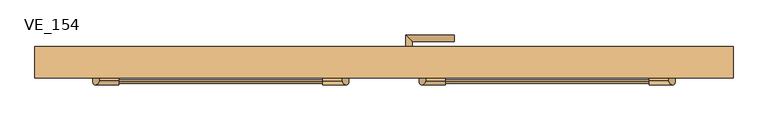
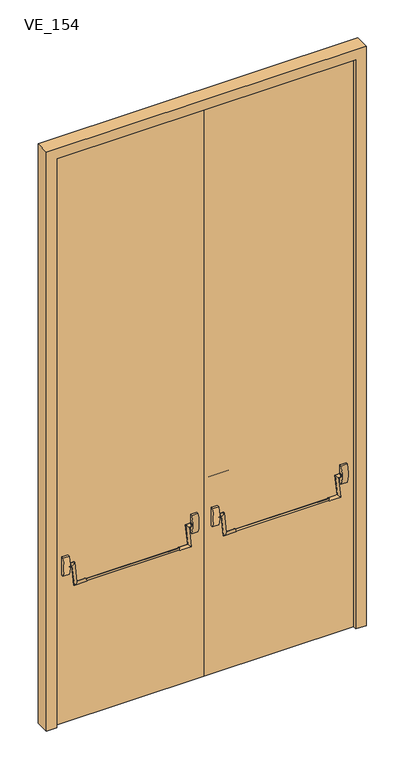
"""IFC4 building model written with IfcOpenShell, lengths in millimetres: door geometry, TRP_CP_ARC_PO_2B_RE : VE_154."""

from ifc_helpers import new_model, si_unit, point, frame, frame_2d, origin, origin_with_axes, place, context, project, spatial, polyline, circle_curve, ellipse_curve, trimmed, segment, composite_curve, outline, extrude, source, transform, mapped, element, save
from ifc_brep_helpers import plane_surface, cylinder_surface, advanced_brep


def ve_154_4ed43ff9(model_context):
    return source(origin(), model_context, "Body", "SolidModel", [
        advanced_brep(
        [(62.5, 25.0, 960.0), (47.5, 25.0, 960.0), (62.5, 45.8278773, 960.0), (47.5, 60.8278773, 960.0), (155.0, 45.8278773, 960.0), (155.0, 60.8278773, 960.0)],
        [
            (0, 1, circle_curve(frame((55.0, 25.0, 960.0), z_axis=(0.0, -1.0, 0.0), x_axis=(-1.0, 0.0, 0.0)), 7.5)),
            (1, 0, circle_curve(frame((55.0, 25.0, 960.0), z_axis=(0.0, -1.0, 0.0), x_axis=(-1.0, 0.0, 0.0)), 7.5)),
            (0, 2),
            (2, 3, ellipse_curve(frame((55.0, 53.3278773, 960.0), z_axis=(-0.7071067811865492, -0.7071067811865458, 0.0), x_axis=(0.7071067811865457, -0.7071067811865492, 0.0)), 10.6066017, 7.5)),
            (3, 1),
            (3, 2, ellipse_curve(frame((55.0, 53.3278773, 960.0), z_axis=(-0.7071067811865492, -0.7071067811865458, 0.0), x_axis=(0.7071067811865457, -0.7071067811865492, 0.0)), 10.6066017, 7.5)),
            (4, 5, circle_curve(frame((155.0, 53.3278773, 960.0), z_axis=(1.0, 0.0, 0.0), x_axis=(0.0, 1.0, 0.0)), 7.5)),
            (5, 4, circle_curve(frame((155.0, 53.3278773, 960.0), z_axis=(1.0, 0.0, 0.0), x_axis=(0.0, 1.0, 0.0)), 7.5)),
            (2, 4),
            (5, 3),
        ],
        [
            plane_surface(frame((55.0, 25.0, 960.0), z_axis=(0.0, -1.0, 0.0), x_axis=(0.0, 0.0, 1.0))),
            cylinder_surface(frame((55.0, 25.0, 960.0), z_axis=(0.0, -1.0, 0.0), x_axis=(-1.0, 0.0, 0.0)), 7.5),
            plane_surface(frame((155.0, 53.3278773, 960.0), z_axis=(1.0, 0.0, 0.0), x_axis=(0.0, 0.0, 1.0))),
            cylinder_surface(frame((55.0, 53.3278773, 960.0), z_axis=(-1.0, 0.0, 0.0), x_axis=(0.0, 1.0, 0.0)), 7.5),
        ],
        [
            (0, [[1, 2]]),
            (1, [[-1, 3, 4, 5]]),
            (1, [[-2, -5, 6, -3]]),
            (2, [[7, 8]]),
            (3, [[-4, 9, -8, 10]]),
            (3, [[-6, -10, -7, -9]]),
        ],
    ),
        extrude(outline(composite_curve([segment(polyline([(980.0, 35.0), (940.0, 35.0)]), True, "CONTINUOUS"), segment(trimmed(circle_curve(frame_2d((940.0, 55.0)), 20.0), [point((940.0, 35.0))], [point((940.0, 75.0))], False, "CARTESIAN"), True, "CONTINUOUS"), segment(polyline([(940.0, 75.0), (980.0, 75.0)]), True, "CONTINUOUS"), segment(trimmed(circle_curve(frame_2d((980.0, 55.0)), 20.0), [point((980.0, 75.0))], [point((980.0, 35.0))], False, "CARTESIAN"), True, "CONTINUOUS")], self_intersect=False)), frame((0.0, 15.0, 0.0), z_axis=(0.0, 1.0, 0.0), x_axis=(0.0, 0.0, 1.0)), (0.0, 0.0, 1.0), 10.0),
        extrude(outline(composite_curve([segment(trimmed(circle_curve(frame_2d((-42.7909535, 712.1255149)), 4.0), [point((-42.7909535, 708.1255149))], [point((-42.7909535, 716.1255149))], False, "CARTESIAN"), True, "CONTINUOUS"), segment(trimmed(circle_curve(frame_2d((-42.7909535, 712.1255149)), 4.0), [point((-42.7909535, 716.1255149))], [point((-42.7909535, 708.1255149))], False, "CARTESIAN"), True, "CONTINUOUS")], self_intersect=False)), frame((135.0, 0.0, 0.0), z_axis=(1.0, 0.0, 0.0), x_axis=(0.0, 1.0, 0.0)), (0.0, 0.0, 1.0), 450.0),
        advanced_brep(
        [(70.0, -22.2081415, 806.9003665), (70.0, -25.137835, 793.2103374), (92.0, -22.2081415, 806.9003665), (78.0, -25.137835, 793.2103374), (92.0, -41.0418854, 718.8930367), (78.0, -43.9715789, 705.2030077), (135.0, -41.0418854, 718.8930367), (135.0, -43.9715789, 705.2030077)],
        [
            (0, 1, circle_curve(frame((70.0, -23.6729883, 800.055352), z_axis=(-1.0, 0.0, 0.0), x_axis=(0.0, -0.20926382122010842, -0.9778592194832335)), 7.0)),
            (1, 0, circle_curve(frame((70.0, -23.6729883, 800.055352), z_axis=(-1.0, 0.0, 0.0), x_axis=(0.0, -0.20926382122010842, -0.9778592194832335)), 7.0)),
            (0, 2),
            (2, 3, ellipse_curve(frame((85.0, -23.6729883, 800.055352), z_axis=(-0.7071067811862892, 0.14797186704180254, 0.6914508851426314), x_axis=(-0.7071067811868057, -0.14797186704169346, -0.6914508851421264)), 9.8994949, 7.0)),
            (3, 1),
            (3, 2, ellipse_curve(frame((85.0, -23.6729883, 800.055352), z_axis=(-0.7071067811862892, 0.14797186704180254, 0.6914508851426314), x_axis=(-0.7071067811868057, -0.14797186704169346, -0.6914508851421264)), 9.8994949, 7.0)),
            (2, 4),
            (4, 5, ellipse_curve(frame((85.0, -42.5067322, 712.0480222), z_axis=(-0.7071067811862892, 0.1479718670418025, 0.6914508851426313), x_axis=(0.7071067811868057, 0.14797186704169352, 0.6914508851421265)), 9.8994949, 7.0)),
            (5, 3),
            (5, 4, ellipse_curve(frame((85.0, -42.5067322, 712.0480222), z_axis=(-0.7071067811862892, 0.1479718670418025, 0.6914508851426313), x_axis=(0.7071067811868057, 0.14797186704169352, 0.6914508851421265)), 9.8994949, 7.0)),
            (6, 7, circle_curve(frame((135.0, -42.5067322, 712.0480222), z_axis=(1.0, 0.0, 0.0), x_axis=(0.0, -0.2092638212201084, -0.9778592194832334)), 7.0)),
            (7, 6, circle_curve(frame((135.0, -42.5067322, 712.0480222), z_axis=(1.0, 0.0, 0.0), x_axis=(0.0, -0.2092638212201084, -0.9778592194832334)), 7.0)),
            (4, 6),
            (7, 5),
        ],
        [
            plane_surface(frame((70.0, 4.3595447, 794.056334), z_axis=(-1.0, 0.0, 0.0), x_axis=(0.0, -0.9778592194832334, 0.20926382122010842))),
            cylinder_surface(frame((70.0, -23.6729883, 800.055352), z_axis=(-1.0000000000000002, 0.0, 0.0), x_axis=(0.0, -0.20926382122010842, -0.9778592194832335)), 7.0),
            cylinder_surface(frame((85.0, -23.6729883, 800.055352), z_axis=(0.0, 0.20926382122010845, 0.9778592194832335), x_axis=(-1.0, 0.0, 0.0)), 7.0),
            plane_surface(frame((135.0, -14.4741992, 706.0490043), z_axis=(1.0, 0.0, 0.0), x_axis=(0.0, -0.9778592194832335, 0.2092638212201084))),
            cylinder_surface(frame((85.0, -42.5067322, 712.0480222), z_axis=(-1.0, 0.0, 0.0), x_axis=(0.0, -0.2092638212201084, -0.9778592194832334)), 7.0),
        ],
        [
            (0, [[1, 2]]),
            (1, [[3, 4, 5, -1]]),
            (1, [[-5, 6, -3, -2]]),
            (2, [[7, 8, 9, -4]]),
            (2, [[-9, 10, -7, -6]]),
            (3, [[11, 12]]),
            (4, [[13, -12, 14, -8]]),
            (4, [[-14, -11, -13, -10]]),
        ],
    ),
        advanced_brep(
        [(650.0, -25.137835, 793.2103374), (650.0, -22.2081415, 806.9003665), (628.0, -22.2081415, 806.9003665), (642.0, -25.137835, 793.2103374), (628.0, -41.0418854, 718.8930367), (642.0, -43.9715789, 705.2030077), (585.0, -43.9715789, 705.2030077), (585.0, -41.0418854, 718.8930367)],
        [
            (0, 1, circle_curve(frame((650.0, -23.6729883, 800.055352), z_axis=(1.0, 0.0, 0.0), x_axis=(0.0, 0.20926382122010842, 0.9778592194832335)), 7.0)),
            (1, 0, circle_curve(frame((650.0, -23.6729883, 800.055352), z_axis=(1.0, 0.0, 0.0), x_axis=(0.0, 0.20926382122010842, 0.9778592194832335)), 7.0)),
            (1, 2),
            (2, 3, ellipse_curve(frame((635.0, -23.6729883, 800.055352), z_axis=(0.7071067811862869, 0.14797186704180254, 0.6914508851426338), x_axis=(0.7071067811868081, -0.14797186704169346, -0.6914508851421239)), 9.8994949, 7.0)),
            (3, 0),
            (3, 2, ellipse_curve(frame((635.0, -23.6729883, 800.055352), z_axis=(0.7071067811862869, 0.14797186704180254, 0.6914508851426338), x_axis=(0.7071067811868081, -0.14797186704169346, -0.6914508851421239)), 9.8994949, 7.0)),
            (2, 4),
            (4, 5, ellipse_curve(frame((635.0, -42.5067322, 712.0480222), z_axis=(0.7071067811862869, 0.14797186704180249, 0.6914508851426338), x_axis=(-0.7071067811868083, 0.1479718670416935, 0.691450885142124)), 9.8994949, 7.0)),
            (5, 3),
            (5, 4, ellipse_curve(frame((635.0, -42.5067322, 712.0480222), z_axis=(0.7071067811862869, 0.14797186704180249, 0.6914508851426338), x_axis=(-0.7071067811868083, 0.1479718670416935, 0.691450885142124)), 9.8994949, 7.0)),
            (6, 7, circle_curve(frame((585.0, -42.5067322, 712.0480222), z_axis=(-1.0, 0.0, 0.0), x_axis=(0.0, 0.20926382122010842, 0.9778592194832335)), 7.0)),
            (7, 6, circle_curve(frame((585.0, -42.5067322, 712.0480222), z_axis=(-1.0, 0.0, 0.0), x_axis=(0.0, 0.20926382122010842, 0.9778592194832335)), 7.0)),
            (4, 7),
            (6, 5),
        ],
        [
            plane_surface(frame((650.0, 4.3595447, 794.056334), z_axis=(1.0000000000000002, 0.0, 0.0), x_axis=(0.0, -0.9778592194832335, 0.20926382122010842))),
            cylinder_surface(frame((650.0, -23.6729883, 800.055352), z_axis=(1.0000000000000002, 0.0, 0.0), x_axis=(0.0, 0.20926382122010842, 0.9778592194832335)), 7.0),
            cylinder_surface(frame((635.0, -23.6729883, 800.055352), z_axis=(0.0, 0.20926382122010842, 0.9778592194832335), x_axis=(-1.0, 0.0, 0.0)), 7.0),
            plane_surface(frame((585.0, -14.4741992, 706.0490043), z_axis=(-1.0000000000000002, 0.0, 0.0), x_axis=(0.0, -0.9778592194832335, 0.20926382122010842))),
            cylinder_surface(frame((635.0, -42.5067322, 712.0480222), z_axis=(1.0000000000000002, 0.0, 0.0), x_axis=(0.0, 0.20926382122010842, 0.9778592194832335)), 7.0),
        ],
        [
            (0, [[1, 2]]),
            (1, [[3, 4, 5, -2]]),
            (1, [[-5, 6, -3, -1]]),
            (2, [[7, 8, 9, -4]]),
            (2, [[-9, 10, -7, -6]]),
            (3, [[11, 12]]),
            (4, [[13, -11, 14, -8]]),
            (4, [[-14, -12, -13, -10]]),
        ],
    ),
        extrude(outline(composite_curve([segment(trimmed(circle_curve(frame_2d((-23.7850211, 800.0)), 7.9999872), [point((-23.7850211, 807.9999872))], [point((-23.7850211, 792.0000128))], False, "CARTESIAN"), True, "CONTINUOUS"), segment(trimmed(circle_curve(frame_2d((-23.7850211, 800.0)), 7.9999872), [point((-23.7850211, 792.0000128))], [point((-23.7850211, 807.9999872))], False, "CARTESIAN"), True, "CONTINUOUS")], self_intersect=False)), frame((65.0, 0.0, 0.0), z_axis=(1.0, 0.0, 0.0), x_axis=(0.0, 1.0, 0.0)), (0.0, 0.0, 1.0), 5.0),
        extrude(outline(composite_curve([segment(trimmed(circle_curve(frame_2d((-23.7993127, 800.0)), 8.0), [point((-23.7993127, 792.0))], [point((-23.7993127, 808.0))], False, "CARTESIAN"), True, "CONTINUOUS"), segment(trimmed(circle_curve(frame_2d((-23.7993127, 800.0)), 8.0), [point((-23.7993127, 808.0))], [point((-23.7993127, 792.0))], False, "CARTESIAN"), True, "CONTINUOUS")], self_intersect=False)), frame((650.0, 0.0, 0.0), z_axis=(1.0, 0.0, 0.0), x_axis=(0.0, 1.0, 0.0)), (0.0, 0.0, 1.0), 5.0),
        extrude(outline(composite_curve([segment(polyline([(-25.0, 846.5217978), (-15.0, 846.5217978), (-15.0, 753.4782022), (-25.0, 753.4782022)]), True, "CONTINUOUS"), segment(trimmed(circle_curve(frame_2d((78.1832138, 800.0)), 113.1859235), [point((-25.0, 753.4782022))], [point((-25.0, 846.5217978))], False, "CARTESIAN"), True, "CONTINUOUS")], self_intersect=False)), frame((655.0, 0.0, 0.0), z_axis=(1.0, 0.0, 0.0), x_axis=(0.0, 1.0, 0.0)), (0.0, 0.0, 1.0), 30.0),
        extrude(outline(composite_curve([segment(polyline([(-25.0, 846.5217978), (-15.0, 846.5217978), (-15.0, 753.4782022), (-25.0, 753.4782022)]), True, "CONTINUOUS"), segment(trimmed(circle_curve(frame_2d((78.1832138, 800.0)), 113.1859235), [point((-25.0, 753.4782022))], [point((-25.0, 846.5217978))], False, "CARTESIAN"), True, "CONTINUOUS")], self_intersect=False)), frame((35.0, 0.0, 0.0), z_axis=(1.0, 0.0, 0.0), x_axis=(0.0, 1.0, 0.0)), (0.0, 0.0, 1.0), 30.0),
        extrude(outline(composite_curve([segment(trimmed(circle_curve(frame_2d((-42.7909535, 712.1255149)), 4.0), [point((-42.7909535, 708.1255149))], [point((-42.7909535, 716.1255149))], False, "CARTESIAN"), True, "CONTINUOUS"), segment(trimmed(circle_curve(frame_2d((-42.7909535, 712.1255149)), 4.0), [point((-42.7909535, 716.1255149))], [point((-42.7909535, 708.1255149))], False, "CARTESIAN"), True, "CONTINUOUS")], self_intersect=False)), frame((-585.0, 0.0, 0.0), z_axis=(1.0, 0.0, 0.0), x_axis=(0.0, 1.0, 0.0)), (0.0, 0.0, 1.0), 450.0),
        advanced_brep(
        [(-70.0, -22.2081415, 806.9003665), (-70.0, -25.137835, 793.2103374), (-78.0, -25.137835, 793.2103374), (-92.0, -22.2081415, 806.9003665), (-78.0, -43.9715789, 705.2030077), (-92.0, -41.0418854, 718.8930367), (-135.0, -41.0418854, 718.8930367), (-135.0, -43.9715789, 705.2030077)],
        [
            (0, 1, circle_curve(frame((-70.0, -23.6729883, 800.055352), z_axis=(1.0, 0.0, 0.0), x_axis=(0.0, -0.20926382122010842, -0.9778592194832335)), 7.0)),
            (1, 0, circle_curve(frame((-70.0, -23.6729883, 800.055352), z_axis=(1.0, 0.0, 0.0), x_axis=(0.0, -0.20926382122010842, -0.9778592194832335)), 7.0)),
            (1, 2),
            (2, 3, ellipse_curve(frame((-85.0, -23.6729883, 800.055352), z_axis=(0.7071067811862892, 0.14797186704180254, 0.6914508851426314), x_axis=(0.7071067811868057, -0.14797186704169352, -0.6914508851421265)), 9.8994949, 7.0)),
            (3, 0),
            (3, 2, ellipse_curve(frame((-85.0, -23.6729883, 800.055352), z_axis=(0.7071067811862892, 0.14797186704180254, 0.6914508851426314), x_axis=(0.7071067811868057, -0.14797186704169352, -0.6914508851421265)), 9.8994949, 7.0)),
            (2, 4),
            (4, 5, ellipse_curve(frame((-85.0, -42.5067322, 712.0480222), z_axis=(0.7071067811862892, 0.1479718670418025, 0.6914508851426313), x_axis=(-0.7071067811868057, 0.14797186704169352, 0.6914508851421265)), 9.8994949, 7.0)),
            (5, 3),
            (5, 4, ellipse_curve(frame((-85.0, -42.5067322, 712.0480222), z_axis=(0.7071067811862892, 0.1479718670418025, 0.6914508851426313), x_axis=(-0.7071067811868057, 0.14797186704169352, 0.6914508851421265)), 9.8994949, 7.0)),
            (6, 7, circle_curve(frame((-135.0, -42.5067322, 712.0480222), z_axis=(-1.0, 0.0, 0.0), x_axis=(0.0, -0.2092638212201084, -0.9778592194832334)), 7.0)),
            (7, 6, circle_curve(frame((-135.0, -42.5067322, 712.0480222), z_axis=(-1.0, 0.0, 0.0), x_axis=(0.0, -0.2092638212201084, -0.9778592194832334)), 7.0)),
            (4, 7),
            (6, 5),
        ],
        [
            plane_surface(frame((-70.0, 4.3595447, 794.056334), z_axis=(1.0, 0.0, 0.0), x_axis=(0.0, -0.9778592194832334, 0.20926382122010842))),
            cylinder_surface(frame((-70.0, -23.6729883, 800.055352), z_axis=(1.0000000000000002, 0.0, 0.0), x_axis=(0.0, -0.20926382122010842, -0.9778592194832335)), 7.0),
            cylinder_surface(frame((-85.0, -23.6729883, 800.055352), z_axis=(0.0, 0.20926382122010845, 0.9778592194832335), x_axis=(1.0, 0.0, 0.0)), 7.0),
            plane_surface(frame((-135.0, -14.4741992, 706.0490043), z_axis=(-1.0, 0.0, 0.0), x_axis=(0.0, -0.9778592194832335, 0.2092638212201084))),
            cylinder_surface(frame((-85.0, -42.5067322, 712.0480222), z_axis=(1.0, 0.0, 0.0), x_axis=(0.0, -0.2092638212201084, -0.9778592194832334)), 7.0),
        ],
        [
            (0, [[1, 2]]),
            (1, [[-2, 3, 4, 5]]),
            (1, [[-1, -5, 6, -3]]),
            (2, [[-4, 7, 8, 9]]),
            (2, [[-6, -9, 10, -7]]),
            (3, [[11, 12]]),
            (4, [[-8, 13, -11, 14]]),
            (4, [[-10, -14, -12, -13]]),
        ],
    ),
        advanced_brep(
        [(-650.0, -25.137835, 793.2103374), (-650.0, -22.2081415, 806.9003665), (-642.0, -25.137835, 793.2103374), (-628.0, -22.2081415, 806.9003665), (-642.0, -43.9715789, 705.2030077), (-628.0, -41.0418854, 718.8930367), (-585.0, -43.9715789, 705.2030077), (-585.0, -41.0418854, 718.8930367)],
        [
            (0, 1, circle_curve(frame((-650.0, -23.6729883, 800.055352), z_axis=(-1.0, 0.0, 0.0), x_axis=(0.0, 0.20926382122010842, 0.9778592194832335)), 7.0)),
            (1, 0, circle_curve(frame((-650.0, -23.6729883, 800.055352), z_axis=(-1.0, 0.0, 0.0), x_axis=(0.0, 0.20926382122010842, 0.9778592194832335)), 7.0)),
            (0, 2),
            (2, 3, ellipse_curve(frame((-635.0, -23.6729883, 800.055352), z_axis=(-0.7071067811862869, 0.14797186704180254, 0.6914508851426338), x_axis=(-0.7071067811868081, -0.14797186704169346, -0.6914508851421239)), 9.8994949, 7.0)),
            (3, 1),
            (3, 2, ellipse_curve(frame((-635.0, -23.6729883, 800.055352), z_axis=(-0.7071067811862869, 0.14797186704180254, 0.6914508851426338), x_axis=(-0.7071067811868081, -0.14797186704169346, -0.6914508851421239)), 9.8994949, 7.0)),
            (2, 4),
            (4, 5, ellipse_curve(frame((-635.0, -42.5067322, 712.0480222), z_axis=(-0.7071067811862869, 0.14797186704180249, 0.6914508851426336), x_axis=(0.7071067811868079, 0.14797186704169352, 0.6914508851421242)), 9.8994949, 7.0)),
            (5, 3),
            (5, 4, ellipse_curve(frame((-635.0, -42.5067322, 712.0480222), z_axis=(-0.7071067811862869, 0.14797186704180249, 0.6914508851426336), x_axis=(0.7071067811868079, 0.14797186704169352, 0.6914508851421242)), 9.8994949, 7.0)),
            (6, 7, circle_curve(frame((-585.0, -42.5067322, 712.0480222), z_axis=(1.0, 0.0, 0.0), x_axis=(0.0, 0.20926382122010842, 0.9778592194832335)), 7.0)),
            (7, 6, circle_curve(frame((-585.0, -42.5067322, 712.0480222), z_axis=(1.0, 0.0, 0.0), x_axis=(0.0, 0.20926382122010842, 0.9778592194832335)), 7.0)),
            (4, 6),
            (7, 5),
        ],
        [
            plane_surface(frame((-650.0, 4.3595447, 794.056334), z_axis=(-1.0000000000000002, 0.0, 0.0), x_axis=(0.0, -0.9778592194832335, 0.20926382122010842))),
            cylinder_surface(frame((-650.0, -23.6729883, 800.055352), z_axis=(-1.0000000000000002, 0.0, 0.0), x_axis=(0.0, 0.20926382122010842, 0.9778592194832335)), 7.0),
            cylinder_surface(frame((-635.0, -23.6729883, 800.055352), z_axis=(0.0, 0.20926382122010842, 0.9778592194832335), x_axis=(1.0, 0.0, 0.0)), 7.0),
            plane_surface(frame((-585.0, -14.4741992, 706.0490043), z_axis=(1.0000000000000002, 0.0, 0.0), x_axis=(0.0, -0.9778592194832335, 0.20926382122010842))),
            cylinder_surface(frame((-635.0, -42.5067322, 712.0480222), z_axis=(-1.0000000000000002, 0.0, 0.0), x_axis=(0.0, 0.20926382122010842, 0.9778592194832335)), 7.0),
        ],
        [
            (0, [[1, 2]]),
            (1, [[-1, 3, 4, 5]]),
            (1, [[-2, -5, 6, -3]]),
            (2, [[-4, 7, 8, 9]]),
            (2, [[-6, -9, 10, -7]]),
            (3, [[11, 12]]),
            (4, [[-8, 13, -12, 14]]),
            (4, [[-10, -14, -11, -13]]),
        ],
    ),
        extrude(outline(composite_curve([segment(trimmed(circle_curve(frame_2d((-23.7850211, 800.0)), 7.9999872), [point((-23.7850211, 807.9999872))], [point((-23.7850211, 792.0000128))], False, "CARTESIAN"), True, "CONTINUOUS"), segment(trimmed(circle_curve(frame_2d((-23.7850211, 800.0)), 7.9999872), [point((-23.7850211, 792.0000128))], [point((-23.7850211, 807.9999872))], False, "CARTESIAN"), True, "CONTINUOUS")], self_intersect=False)), frame((-70.0, 0.0, 0.0), z_axis=(1.0, 0.0, 0.0), x_axis=(0.0, 1.0, 0.0)), (0.0, 0.0, 1.0), 5.0),
        extrude(outline(composite_curve([segment(trimmed(circle_curve(frame_2d((-23.7993127, 800.0)), 8.0), [point((-23.7993127, 792.0))], [point((-23.7993127, 808.0))], False, "CARTESIAN"), True, "CONTINUOUS"), segment(trimmed(circle_curve(frame_2d((-23.7993127, 800.0)), 8.0), [point((-23.7993127, 808.0))], [point((-23.7993127, 792.0))], False, "CARTESIAN"), True, "CONTINUOUS")], self_intersect=False)), frame((-655.0, 0.0, 0.0), z_axis=(1.0, 0.0, 0.0), x_axis=(0.0, 1.0, 0.0)), (0.0, 0.0, 1.0), 5.0),
        extrude(outline(composite_curve([segment(polyline([(-25.0, 846.5217978), (-15.0, 846.5217978), (-15.0, 753.4782022), (-25.0, 753.4782022)]), True, "CONTINUOUS"), segment(trimmed(circle_curve(frame_2d((78.1832138, 800.0)), 113.1859235), [point((-25.0, 753.4782022))], [point((-25.0, 846.5217978))], False, "CARTESIAN"), True, "CONTINUOUS")], self_intersect=False)), frame((-685.0, 0.0, 0.0), z_axis=(1.0, 0.0, 0.0), x_axis=(0.0, 1.0, 0.0)), (0.0, 0.0, 1.0), 30.0),
        extrude(outline(composite_curve([segment(polyline([(-25.0, 846.5217978), (-15.0, 846.5217978), (-15.0, 753.4782022), (-25.0, 753.4782022)]), True, "CONTINUOUS"), segment(trimmed(circle_curve(frame_2d((78.1832138, 800.0)), 113.1859235), [point((-25.0, 753.4782022))], [point((-25.0, 846.5217978))], False, "CARTESIAN"), True, "CONTINUOUS")], self_intersect=False)), frame((-65.0, 0.0, 0.0), z_axis=(1.0, 0.0, 0.0), x_axis=(0.0, 1.0, 0.0)), (0.0, 0.0, 1.0), 30.0),
        extrude(outline(polyline([(0.0, -15.0), (-720.0, -15.0), (-720.0, 15.0), (0.0, 15.0), (0.0, -15.0)])), origin_with_axes(), (0.0, 0.0, 1.0), 2900.0231001),
        extrude(outline(polyline([(720.0, -15.0), (0.0, -15.0), (0.0, 15.0), (720.0, 15.0), (720.0, -15.0)])), origin_with_axes(), (0.0, 0.0, 1.0), 2900.0231001),
        extrude(outline(polyline([(0.0, 720.0), (0.0, 770.0), (2950.0231001, 770.0), (2950.0231001, -770.0), (0.0, -770.0), (0.0, -720.0), (2900.0231001, -720.0), (2900.0231001, 720.0), (0.0, 720.0)])), frame((0.0, -35.0, 0.0), z_axis=(0.0, 1.0, 0.0), x_axis=(0.0, 0.0, 1.0)), (0.0, 0.0, 1.0), 70.0),
    ])


if __name__ == "__main__":
    model = new_model("IFC4")
    model_context = context("Model", 3, world=origin())
    ifc_project = project(units=[si_unit("LENGTHUNIT", "METRE", prefix="MILLI")], contexts=[model_context])
    site = spatial("IfcSite", under=ifc_project)
    building = spatial("IfcBuilding", under=site)
    placement = place(None, origin())
    ve_154_shape = ve_154_4ed43ff9(model_context)
    element("IfcDoor", 1, ObjectType="TRP_CP_ARC_PO_2B_RE : VE_154", at=placement, inside=building, context=model_context, shape_type="MappedRepresentation", body=[
        mapped(ve_154_shape, transform((0.0, 0.0, 0.0), x_axis=(1.0, 0.0, 0.0), y_axis=(0.0, 1.0, 0.0), z_axis=(0.0, 0.0, 1.0))),
    ])
    save(model, "model.ifc")
